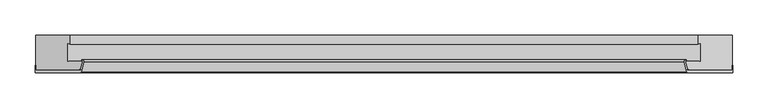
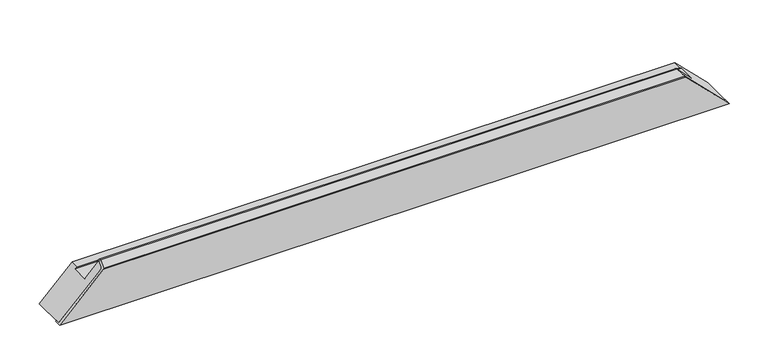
"""IFC4 building model written with IfcOpenShell, lengths in millimetres: proxy geometry, Weiku - Montante - Caixilho 02.2.01.005 : Weiku - Montante - Caixilho 02.2.01.005."""

import ifcopenshell
import ifcopenshell.guid

model = None  # the IFC model being written
_history = None  # IfcOwnerHistory: only IFC2X3 demands one
_inside = {}  # id of a spatial element -> (the spatial element, [elements in it])
_under = {}  # id of a project, library or spatial element -> (it, [spatial elements below it])
_declared = {}  # id of a project -> (the project, [libraries it declares])
_typed = {}  # id of a type object -> (the type object, [elements of that type])
_made_of = {}  # id of a material, layer set ... -> (it, [elements and type objects made of it])


def new_model(schema):
    """Start an empty IFC model of exactly this schema.

    Asked for "IFC4X3", IfcOpenShell would pick the latest addendum, in which some entities
    have other attributes; the version numbers below select the first issue.
    IFC2X3 requires an IfcOwnerHistory on every rooted entity: one is made here for all.
    """
    global model, _history
    if schema == "IFC4X3":
        model = ifcopenshell.file(schema_version=(4, 3, 0, 0))
    else:
        model = ifcopenshell.file(schema=schema)
    _inside.clear()
    _under.clear()
    _declared.clear()
    _typed.clear()
    _made_of.clear()
    _history = None
    if model.schema == "IFC2X3":
        org = make("IfcOrganization", Name="unknown")
        user = make(
            "IfcPersonAndOrganization",
            ThePerson=make("IfcPerson", FamilyName="unknown"),
            TheOrganization=org,
        )
        app = make(
            "IfcApplication",
            ApplicationDeveloper=org,
            Version="unknown",
            ApplicationFullName="unknown",
            ApplicationIdentifier="unknown",
        )
        _history = make(
            "IfcOwnerHistory",
            OwningUser=user,
            OwningApplication=app,
            ChangeAction="ADDED",
            CreationDate=0,
        )
    return model


def make(cls, **values):
    """One entity of the class cls with the attributes given. An attribute that is None is left unset."""
    return model.create_entity(
        cls, **{name: value for name, value in values.items() if value is not None}
    )


def rooted(cls, **values):
    """An entity with a GlobalId (a new one), such as an element, a storey or a relation."""
    return make(cls, GlobalId=ifcopenshell.guid.new(), OwnerHistory=_history, **values)


def si_unit(unit_type, name, prefix=None):
    """IfcSIUnit, for example si_unit("LENGTHUNIT", "METRE", prefix="MILLI")."""
    return make("IfcSIUnit", UnitType=unit_type, Prefix=prefix, Name=name)


def assignment(units):
    """IfcUnitAssignment: the units of a project."""
    return None if units is None else make("IfcUnitAssignment", Units=units)


def point(xyz):
    """IfcCartesianPoint."""
    return None if xyz is None else make("IfcCartesianPoint", Coordinates=xyz)


def direction(xyz):
    """IfcDirection."""
    return None if xyz is None else make("IfcDirection", DirectionRatios=xyz)


def frame(location, z_axis=None, x_axis=None):
    """IfcAxis2Placement3D, a coordinate frame: its origin and axes. An axis left out is left unset."""
    return make(
        "IfcAxis2Placement3D",
        Location=point(location),
        Axis=direction(z_axis),
        RefDirection=direction(x_axis),
    )


def origin():
    """The frame at (0, 0, 0) with its axes left unset."""
    return frame((0.0, 0.0, 0.0))


def place(relative_to, where):
    """IfcLocalPlacement: puts the frame where relative to a parent placement (None: the world)."""
    return make(
        "IfcLocalPlacement", PlacementRelTo=relative_to, RelativePlacement=where
    )


def context(
    kind, dimensions, precision=None, world=None, true_north=None, identifier=None
):
    """IfcGeometricRepresentationContext, for example the 3D "Model" context."""
    return make(
        "IfcGeometricRepresentationContext",
        ContextIdentifier=identifier,
        ContextType=kind,
        CoordinateSpaceDimension=dimensions,
        Precision=precision,
        WorldCoordinateSystem=world,
        TrueNorth=true_north,
    )


def project(units=None, contexts=None):
    """IfcProject with its units and contexts."""
    return rooted(
        "IfcProject",
        Name="project",
        RepresentationContexts=contexts,
        UnitsInContext=assignment(units),
    )


def spatial(cls, under=None, at=None, **own):
    """A site, building, storey or space (cls), placed at a placement, below another one or the project."""
    s = rooted(cls, ObjectPlacement=at, **own)
    if under is not None:
        _under.setdefault(under.id(), (under, []))[1].append(s)
    return s


def polyline(points):
    """IfcPolyline through the points."""
    return make("IfcPolyline", Points=[point(p) for p in points])


def ellipse_curve(where, semi_axis1, semi_axis2):
    """IfcEllipse in the frame where."""
    return make(
        "IfcEllipse", Position=where, SemiAxis1=semi_axis1, SemiAxis2=semi_axis2
    )


def shape(context_of_items, identifier, shape_type, items):
    """IfcShapeRepresentation: the items that make up one representation, for example the "Body"."""
    return make(
        "IfcShapeRepresentation",
        ContextOfItems=context_of_items,
        RepresentationIdentifier=identifier,
        RepresentationType=shape_type,
        Items=items,
    )


def source(mapping_origin, context_of_items, identifier, shape_type, items):
    """IfcRepresentationMap: a shape defined once, which mapped items show again and again."""
    return make(
        "IfcRepresentationMap",
        MappingOrigin=mapping_origin,
        MappedRepresentation=shape(context_of_items, identifier, shape_type, items),
    )


def transform(
    local_origin,
    x_axis=None,
    y_axis=None,
    z_axis=None,
    scale=None,
    scale2=None,
    scale3=None,
    uniform=True,
):
    """IfcCartesianTransformationOperator3D, or its non-uniform kind. x_axis, y_axis, z_axis: its Axis1, 2, 3."""
    if uniform:
        return make(
            "IfcCartesianTransformationOperator3D",
            Axis1=direction(x_axis),
            Axis2=direction(y_axis),
            LocalOrigin=point(local_origin),
            Scale=scale,
            Axis3=direction(z_axis),
        )
    return make(
        "IfcCartesianTransformationOperator3DnonUniform",
        Axis1=direction(x_axis),
        Axis2=direction(y_axis),
        LocalOrigin=point(local_origin),
        Scale=scale,
        Axis3=direction(z_axis),
        Scale2=scale2,
        Scale3=scale3,
    )


def mapped(mapping_source, mapping_target):
    """IfcMappedItem: shows the shape of a source again, moved by a transform."""
    return make(
        "IfcMappedItem", MappingSource=mapping_source, MappingTarget=mapping_target
    )


def made_of(thing, what):
    """Note that an element or type object is made of a material, layer set ...; save() writes the relation."""
    if what is not None:
        _made_of.setdefault(what.id(), (what, []))[1].append(thing)
    return thing


def element(
    cls,
    number,
    at=None,
    inside=None,
    cuts=None,
    type_object=None,
    material=None,
    context=None,
    identifier="Body",
    shape_type=None,
    held_by="IfcProductDefinitionShape",
    body=None,
    shapes=None,
    **own,
):
    """One element of the class cls, such as IfcWall. Its Tag is "e" and its number.

    at: its placement. inside: the storey or other place that contains it. cuts: it is an
    opening in that element (IfcRelVoidsElement). A single representation is given by context,
    identifier, shape_type and body (its items); several are given by shapes. held_by: the class
    of the entity that holds the representations. save() writes the other relations.
    """
    e = rooted(cls, Tag="e%d" % number, ObjectPlacement=at, **own)
    if body is not None:
        shapes = [shape(context, identifier, shape_type, body)]
    if shapes is not None:
        e.Representation = make(held_by, Representations=shapes)
    if inside is not None:
        _inside.setdefault(inside.id(), (inside, []))[1].append(e)
    if cuts is not None:
        rooted(
            "IfcRelVoidsElement", RelatingBuildingElement=cuts, RelatedOpeningElement=e
        )
    if type_object is not None:
        _typed.setdefault(type_object.id(), (type_object, []))[1].append(e)
    return made_of(e, material)


def aggregate(whole, parts):
    """IfcRelAggregates: a whole, such as a stair, and the parts it consists of."""
    return rooted("IfcRelAggregates", RelatingObject=whole, RelatedObjects=parts)


def save(model, path):
    """Write the relations noted so far, then the file.

    IfcRelAggregates (storeys below a building ...), IfcRelContainedInSpatialStructure (elements
    in a storey), IfcRelDefinesByType, IfcRelAssociatesMaterial and IfcRelDeclares: one each for
    every whole, place, type object, material and project.
    """
    for whole, parts in _under.values():
        aggregate(whole, parts)
    for where, things in _inside.values():
        rooted(
            "IfcRelContainedInSpatialStructure",
            RelatedElements=things,
            RelatingStructure=where,
        )
    for kind, things in _typed.values():
        rooted("IfcRelDefinesByType", RelatedObjects=things, RelatingType=kind)
    for what, things in _made_of.values():
        rooted("IfcRelAssociatesMaterial", RelatedObjects=things, RelatingMaterial=what)
    for by, libraries in _declared.values():
        rooted("IfcRelDeclares", RelatingContext=by, RelatedDefinitions=libraries)
    model.write(path)


def plane_surface(at):
    """IfcPlane: the flat surface through the origin of the frame at, square to its z axis."""
    return make("IfcPlane", Position=at)


def cylinder_surface(at, radius):
    """IfcCylindricalSurface: all points at the distance radius from the z axis of the frame at."""
    return make("IfcCylindricalSurface", Position=at, Radius=radius)


def revolved_surface(curve, axis_point, axis_direction):
    """IfcSurfaceOfRevolution: the curve turned about the line through axis_point along axis_direction."""
    return make(
        "IfcSurfaceOfRevolution",
        SweptCurve=make("IfcArbitraryOpenProfileDef", ProfileType="CURVE", Curve=curve),
        AxisPosition=make("IfcAxis1Placement", Location=point(axis_point), Axis=direction(axis_direction)),
    )


def advanced_brep(points, edges, surfaces, faces):
    """IfcAdvancedBrep: a solid bounded by faces that lie on surfaces and meet in shared edges.

    An edge is (start, end): straight between two places in points (the first is 0);
    or (start, end, curve); or (start, end, curve, False) where it runs against its curve.
    A face is (place in surfaces, loops), or (place, loops, False) where it looks against
    its surface's normal. A loop lists edges by number (the first is 1), with a minus sign
    where the edge is run from its end to its start. The first loop is the outer one.
    """
    corners = [point(p) for p in points]
    vertices = [make("IfcVertexPoint", VertexGeometry=c) for c in corners]
    made = []
    for start, end, *more in edges:
        made.append(
            make(
                "IfcEdgeCurve",
                EdgeStart=vertices[start],
                EdgeEnd=vertices[end],
                EdgeGeometry=more[0] if more else make("IfcPolyline", Points=[corners[start], corners[end]]),
                SameSense=more[1] if len(more) > 1 else True,
            )
        )
    hull = []
    for where, loops, *sense in faces:
        bounds = []
        for j, loop in enumerate(loops):
            ring = [make("IfcOrientedEdge", EdgeElement=made[abs(k) - 1], Orientation=k > 0) for k in loop]
            bounds.append(
                make(
                    "IfcFaceOuterBound" if j == 0 else "IfcFaceBound",
                    Bound=make("IfcEdgeLoop", EdgeList=ring),
                    Orientation=True,
                )
            )
        hull.append(make("IfcAdvancedFace", Bounds=bounds, FaceSurface=surfaces[where], SameSense=sense[0] if sense else True))
    return make("IfcAdvancedBrep", Outer=make("IfcClosedShell", CfsFaces=hull))


def generic_models_940fd662(model_context):
    return source(origin(), model_context, "Body", "AdvancedBrep", [
        advanced_brep(
        [(433.4663236, -4.0, 64.0336764), (498.5, -4.0, -1.0), (498.5, 6.4862095, -1.0), (497.5, 6.4862095, 0.0), (497.5, 0.0, 0.0), (435.9997332, 0.0, 61.5002668), (433.1019557, 2.2235429, 64.3980443), (430.618227, 11.4929448, 66.881773), (431.3909676, 12.5, 66.1090324), (431.3909676, 14.5, 66.1090324), (428.6863753, 10.9753067, 68.8136247), (432.5003978, -3.258819, 64.9996022), (-498.5, -4.0, -1.0), (-433.4663236, -4.0, 64.0336764), (-432.5003978, -3.258819, 64.9996022), (-428.6863753, 10.9753067, 68.8136247), (-431.3909676, 14.5, 66.1090324), (-431.3909676, 12.5, 66.1090324), (-430.618227, 11.4929448, 66.881773), (-433.1019557, 2.2235429, 64.3980443), (-435.9997332, 0.0, 61.5002668), (-497.5, 0.0, 0.0), (-497.5, 6.4862095, 0.0), (-498.5, 6.4862095, -1.0)],
        [
            (0, 1),
            (1, 2),
            (2, 3),
            (3, 4),
            (4, 5),
            (5, 6, ellipse_curve(frame((435.9997332, 3.0, 61.5002668), z_axis=(-0.707106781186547, 0.0, -0.7071067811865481), x_axis=(0.7071067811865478, 0.0, -0.707106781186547)), 4.2426407, 3.0)),
            (6, 7),
            (7, 8, ellipse_curve(frame((431.3909676, 11.7, 66.1090324), z_axis=(-0.707106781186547, 0.0, -0.7071067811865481), x_axis=(0.7071067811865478, 0.0, -0.707106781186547)), 1.1313708, 0.8)),
            (8, 9),
            (9, 10, ellipse_curve(frame((431.3909676, 11.7, 66.1090324), z_axis=(0.707106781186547, 0.0, 0.7071067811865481), x_axis=(-0.7071067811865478, 0.0, 0.707106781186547)), 3.959798, 2.8)),
            (10, 11),
            (11, 0, ellipse_curve(frame((433.4663236, -3.0, 64.0336764), z_axis=(0.707106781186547, 0.0, 0.7071067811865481), x_axis=(-0.7071067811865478, 0.0, 0.707106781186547)), 1.4142136, 1.0)),
            (12, 13),
            (13, 14, ellipse_curve(frame((-433.4663236, -3.0, 64.0336764), z_axis=(-0.7071067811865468, 0.0, 0.7071067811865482), x_axis=(-0.7071067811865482, 0.0, -0.7071067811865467)), 1.4142136, 1.0)),
            (14, 15),
            (15, 16, ellipse_curve(frame((-431.3909676, 11.7, 66.1090324), z_axis=(-0.7071067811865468, 0.0, 0.7071067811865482), x_axis=(-0.7071067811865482, 0.0, -0.7071067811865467)), 3.959798, 2.8)),
            (16, 17),
            (17, 18, ellipse_curve(frame((-431.3909676, 11.7, 66.1090324), z_axis=(0.7071067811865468, 0.0, -0.7071067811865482), x_axis=(0.7071067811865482, 0.0, 0.7071067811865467)), 1.1313708, 0.8)),
            (18, 19),
            (19, 20, ellipse_curve(frame((-435.9997332, 3.0, 61.5002668), z_axis=(0.7071067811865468, 0.0, -0.7071067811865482), x_axis=(0.7071067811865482, 0.0, 0.7071067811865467)), 4.2426407, 3.0)),
            (20, 21),
            (21, 22),
            (22, 23),
            (23, 12),
            (0, 13),
            (12, 1),
            (11, 14),
            (10, 15),
            (9, 16),
            (8, 17),
            (7, 18),
            (6, 19),
            (5, 20),
            (4, 21),
            (3, 22),
            (2, 23),
        ],
        [
            plane_surface(frame((427.5, -15.0, 70.0), z_axis=(0.707106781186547, 0.0, 0.7071067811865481), x_axis=(0.0, 1.0, 0.0))),
            plane_surface(frame((-567.5, -15.0, -70.0), z_axis=(-0.7071067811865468, 0.0, 0.7071067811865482), x_axis=(0.0, 1.0, 0.0))),
            plane_surface(frame((-500.3284271, -4.0, -1.0), z_axis=(0.0, -1.0, 0.0), x_axis=(1.0, 0.0, 0.0))),
            cylinder_surface(frame((-500.3284271, -3.0, 64.0336764), z_axis=(-1.0, 0.0, 0.0), x_axis=(0.0, 1.0, 0.0)), 1.0),
            plane_surface(frame((-500.3284271, -3.258819, 64.9996022), z_axis=(0.0, -0.25881904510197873, 0.9659258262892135), x_axis=(1.0, 0.0, 0.0))),
            cylinder_surface(frame((-500.3284271, 11.7, 66.1090324), z_axis=(-1.0, 0.0, 0.0), x_axis=(0.0, 1.0, 0.0)), 2.8),
            plane_surface(frame((-500.3284271, 14.5, 66.1090324), z_axis=(0.0, 0.0, -1.0), x_axis=(1.0, 0.0, 0.0))),
            revolved_surface(polyline([(432.1909675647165, 12.5, 66.1090324), (-432.19096756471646, 12.5, 66.1090324)]), (-500.3284271, 11.7, 66.1090324), (1.0, 0.0, 0.0)),
            plane_surface(frame((-500.3284271, 11.4929448, 66.881773), z_axis=(0.0, 0.2588190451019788, -0.9659258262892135), x_axis=(1.0, 0.0, 0.0))),
            revolved_surface(polyline([(438.99973320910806, 6.0, 61.5002668), (-438.999733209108, 6.0, 61.5002668)]), (-500.3284271, 3.0, 61.5002668), (1.0, 0.0, 0.0)),
            plane_surface(frame((-500.3284271, 0.0, 61.5002668), z_axis=(0.0, 1.0, 0.0), x_axis=(1.0, 0.0, 0.0))),
            plane_surface(frame((-500.3284271, 0.0, 0.0), z_axis=(0.0, 0.0, 1.0), x_axis=(1.0, 0.0, 0.0))),
            plane_surface(frame((-500.3284271, 6.4862095, 0.0), z_axis=(0.0, 1.0, 0.0), x_axis=(1.0, 0.0, 0.0))),
            plane_surface(frame((-500.3284271, 6.4862095, -1.0), z_axis=(0.0, 0.0, -1.0), x_axis=(1.0, 0.0, 0.0))),
        ],
        [
            (0, [[1, 2, 3, 4, 5, 6, 7, 8, 9, 10, 11, 12]]),
            (1, [[13, 14, 15, 16, 17, 18, 19, 20, 21, 22, 23, 24]]),
            (2, [[-1, 25, -13, 26]]),
            (3, [[-12, 27, -14, -25]]),
            (4, [[-11, 28, -15, -27]]),
            (5, [[-10, 29, -16, -28]]),
            (6, [[-9, 30, -17, -29]]),
            (7, [[-8, 31, -18, -30]]),
            (8, [[-7, 32, -19, -31]]),
            (9, [[-6, 33, -20, -32]]),
            (10, [[-5, 34, -21, -33]]),
            (11, [[-4, 35, -22, -34]]),
            (12, [[-3, 36, -23, -35]]),
            (13, [[-2, -26, -24, -36]]),
        ],
    ),
        advanced_brep(
        [(-451.5, 12.5, 46.0), (-431.3909676, 12.5, 66.1090324), (431.3909676, 12.5, 66.1090324), (451.5, 12.5, 46.0), (-451.5, 37.8314286, 46.0), (451.5, 37.8314286, 46.0), (-448.5, 37.027581, 49.0), (448.5, 37.027581, 49.0), (-448.5, 50.0, 49.0), (448.5, 50.0, 49.0), (497.5, 50.0, 0.0), (-497.5, 50.0, 0.0), (497.5, 0.0, 0.0), (-497.5, 0.0, 0.0), (435.9997332, 0.0, 61.5002668), (-435.9997332, 0.0, 61.5002668), (-430.618227, 11.4929448, 66.881773), (-433.1019557, 2.2235429, 64.3980443), (433.1019557, 2.2235429, 64.3980443), (430.618227, 11.4929448, 66.881773)],
        [
            (0, 1),
            (1, 2),
            (2, 3),
            (3, 0),
            (4, 0),
            (3, 5),
            (5, 4),
            (6, 4),
            (5, 7),
            (7, 6),
            (8, 6),
            (7, 9),
            (9, 8),
            (10, 11),
            (11, 8),
            (9, 10),
            (10, 12),
            (12, 13),
            (13, 11),
            (12, 14),
            (14, 15),
            (15, 13),
            (16, 17),
            (17, 18),
            (18, 19),
            (19, 16),
            (15, 17, ellipse_curve(frame((-435.9997332, 3.0, 61.5002668), z_axis=(-0.7071067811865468, 0.0, 0.7071067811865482), x_axis=(-0.7071067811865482, 0.0, -0.7071067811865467)), 4.2426407, 3.0)),
            (16, 1, ellipse_curve(frame((-431.3909676, 11.7, 66.1090324), z_axis=(-0.7071067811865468, 0.0, 0.7071067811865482), x_axis=(-0.7071067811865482, 0.0, -0.7071067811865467)), 1.1313708, 0.8)),
            (2, 19, ellipse_curve(frame((431.3909676, 11.7, 66.1090324), z_axis=(0.707106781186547, 0.0, 0.7071067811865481), x_axis=(-0.7071067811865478, 0.0, 0.707106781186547)), 1.1313708, 0.8)),
            (18, 14, ellipse_curve(frame((435.9997332, 3.0, 61.5002668), z_axis=(0.707106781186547, 0.0, 0.7071067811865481), x_axis=(-0.7071067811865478, 0.0, 0.707106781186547)), 4.2426407, 3.0)),
        ],
        [
            plane_surface(frame((-497.5, 12.5, 66.1090324), z_axis=(0.0, 1.0, 0.0), x_axis=(1.0, 0.0, 0.0))),
            plane_surface(frame((-497.5, 12.5, 46.0), z_axis=(0.0, 0.0, 1.0), x_axis=(1.0, 0.0, 0.0))),
            plane_surface(frame((-497.5, 37.8314286, 46.0), z_axis=(0.0, -0.9659258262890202, -0.2588190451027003), x_axis=(1.0, 0.0, 0.0))),
            plane_surface(frame((-497.5, 37.027581, 49.0), z_axis=(0.0, 0.0, 1.0), x_axis=(1.0, 0.0, 0.0))),
            plane_surface(frame((-497.5, 50.0, 49.0), z_axis=(0.0, 1.0, 0.0), x_axis=(1.0, 0.0, 0.0))),
            plane_surface(frame((-497.5, 50.0, 0.0), z_axis=(0.0, 0.0, -1.0), x_axis=(1.0, 0.0, 0.0))),
            plane_surface(frame((-497.5, 0.0, 0.0), z_axis=(0.0, -1.0, 0.0), x_axis=(1.0, 0.0, 0.0))),
            plane_surface(frame((-497.5, 2.2235429, 64.3980443), z_axis=(0.0, -0.2588190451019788, 0.9659258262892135), x_axis=(1.0, 0.0, 0.0))),
            plane_surface(frame((-567.5, -15.0, -70.0), z_axis=(-0.7071067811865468, 0.0, 0.7071067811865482), x_axis=(0.0, 1.0, 0.0))),
            plane_surface(frame((427.5, -15.0, 70.0), z_axis=(0.707106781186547, 0.0, 0.7071067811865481), x_axis=(0.0, 1.0, 0.0))),
            cylinder_surface(frame((-497.5, 11.7, 66.1090324), z_axis=(-1.0, 0.0, 0.0), x_axis=(0.0, 1.0, 0.0)), 0.8),
            cylinder_surface(frame((-497.5, 3.0, 61.5002668), z_axis=(-1.0, 0.0, 0.0), x_axis=(0.0, 1.0, 0.0)), 3.0),
        ],
        [
            (0, [[1, 2, 3, 4]]),
            (1, [[5, -4, 6, 7]]),
            (2, [[8, -7, 9, 10]]),
            (3, [[11, -10, 12, 13]]),
            (4, [[14, 15, -13, 16]]),
            (5, [[-14, 17, 18, 19]]),
            (6, [[-18, 20, 21, 22]]),
            (7, [[23, 24, 25, 26]]),
            (8, [[-1, -5, -8, -11, -15, -19, -22, 27, -23, 28]]),
            (9, [[-3, 29, -25, 30, -20, -17, -16, -12, -9, -6]]),
            (10, [[-28, -26, -29, -2]]),
            (11, [[-27, -21, -30, -24]]),
        ],
    ),
    ])


if __name__ == "__main__":
    model = new_model("IFC4")
    model_context = context("Model", 3, world=origin())
    ifc_project = project(units=[si_unit("LENGTHUNIT", "METRE", prefix="MILLI")], contexts=[model_context])
    site = spatial("IfcSite", under=ifc_project)
    building = spatial("IfcBuilding", under=site)
    placement = place(None, origin())
    generic_models_shape = generic_models_940fd662(model_context)
    element("IfcBuildingElementProxy", 1, Name="Weiku - Montante - Caixilho 02.2.01.005 : Weiku - Montante - Caixilho 02.2.01.005", ObjectType="Weiku - Montante - Caixilho 02.2.01.005 : Weiku - Montante - Caixilho 02.2.01.005", at=placement, inside=building, context=model_context, shape_type="MappedRepresentation", body=[
        mapped(generic_models_shape, transform((0.0, 0.0, 0.0), x_axis=(1.0, 0.0, 0.0), y_axis=(0.0, 1.0, 0.0), z_axis=(0.0, 0.0, 1.0))),
    ])
    save(model, "model.ifc")
